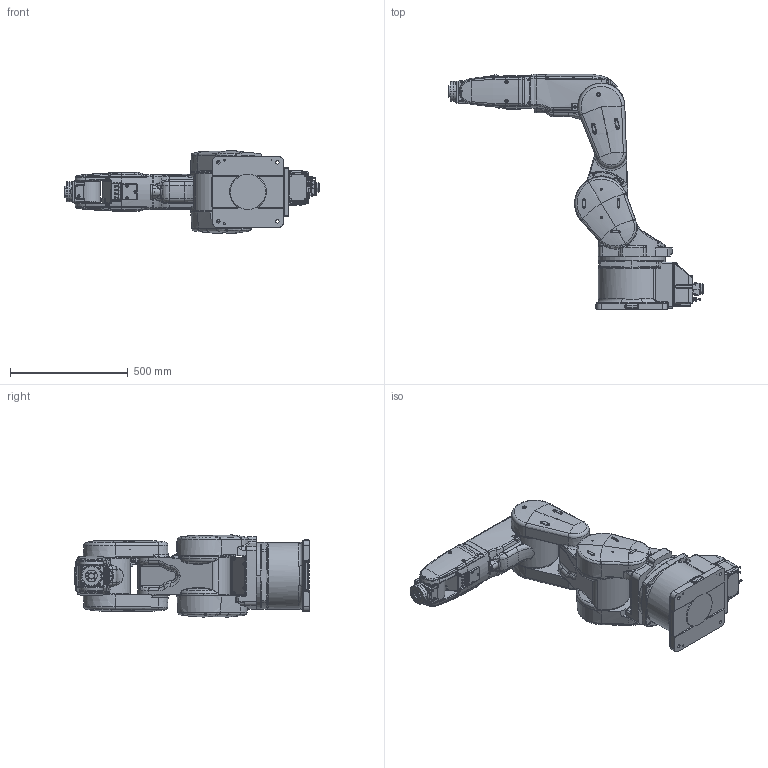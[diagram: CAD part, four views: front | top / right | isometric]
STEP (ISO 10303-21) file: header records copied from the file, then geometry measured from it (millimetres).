
FILE_DESCRIPTION((''),'2;1');
FILE_NAME('RV-13FR-MC_ASM','2017-05-25T',('PC32302'),(''),'PRO/ENGINEER BY PARAMETRIC TECHNOLOGY CORPORATION, 2014310','PRO/ENGINEER BY PARAMETRIC TECHNOLOGY CORPORATION, 2014310','');
FILE_SCHEMA(('CONFIG_CONTROL_DESIGN'));
Length unit declared in the file: millimetre
Products named in the file (9): RV-13FR-MC_SKELTON; RV-13FR-MC_BASE_01; RV-13F_SHOULDER_02; RV-13F_NO1ARM_03; RV-13F_ELBOW_04; RV-13F_NO2ARM_05; RV-13F_WRIST_06; RV-13F_HAND_FLANGE_07; RV-13FR-MC_ASM
Assembly tree (8 placements, depth 2):
  RV-13FR-MC_ASM
    RV-13FR-MC_SKELTON
    RV-13FR-MC_BASE_01
    RV-13F_SHOULDER_02
    RV-13F_NO1ARM_03
    RV-13F_ELBOW_04
    RV-13F_NO2ARM_05
    RV-13F_WRIST_06
    RV-13F_HAND_FLANGE_07
Bounding box: 1079.5 x 997.11 x 348.47 mm (x, y, z)
Volume: 67512925.6 mm3; surface area: 2324244.1 mm2
Topology: 7 solids, 7 shells, 3395 faces, 8469 edges, 5302 vertices
Faces by surface type: cylinder 1239, plane 935, bspline 610, torus 289, cone 273, sphere 47, revolution 2
Entity records: 229910 total; most frequent: CARTESIAN_POINT 153685, ORIENTED_EDGE 16888, DIRECTION 14573, EDGE_CURVE 8444, AXIS2_PLACEMENT_3D 5806, VERTEX_POINT 5302, EDGE_LOOP 3670, FACE_OUTER_BOUND 3395
